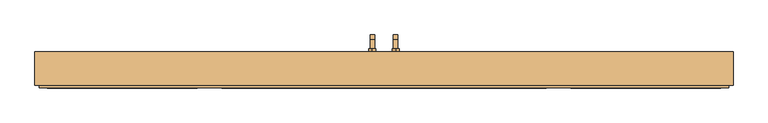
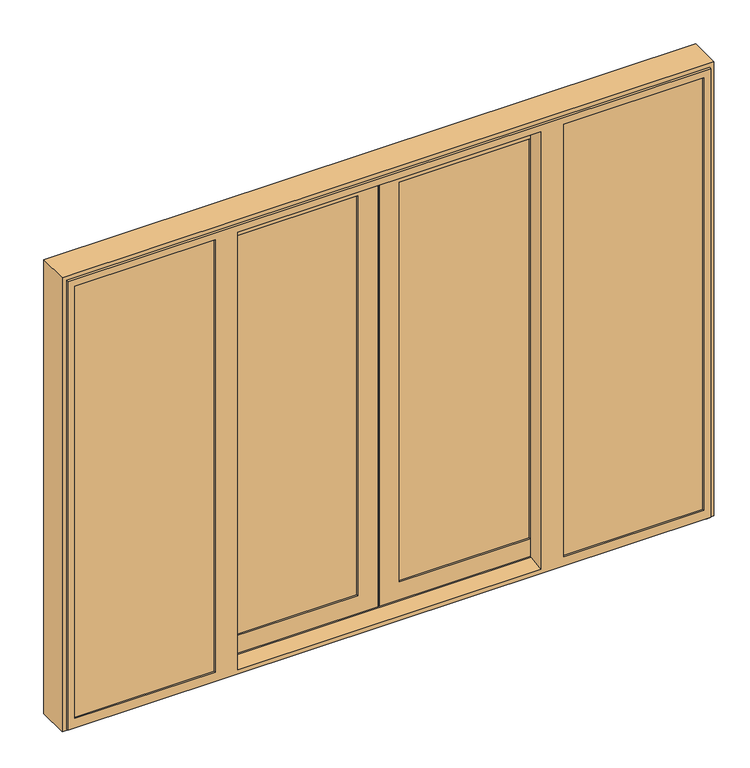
"""IFC4 building model written with IfcOpenShell, lengths in millimetres: door geometry, 3_pod-kli_2+2fix : 3_pod-kli_2+2fix."""

from ifc_helpers import new_model, si_unit, point, frame, frame_2d, origin, place, context, project, spatial, polyline, circle_curve, trimmed, segment, composite_curve, outline, extrude, faceted_brep, source, transform, mapped, element, save
from ifc_brep_helpers import plane_surface, cylinder_surface, advanced_brep


def door_8a70e2ef(model_context):
    return source(origin(), model_context, "Body", "SolidModel", [
        extrude(outline(composite_curve([segment(polyline([(58.0, 1018.0), (58.0, 1033.0), (58.0, 1048.0), (97.0, 1048.0)]), True, "CONTINUOUS"), segment(trimmed(circle_curve(frame_2d((97.0, 1028.0)), 20.0), [point((97.0, 1048.0))], [point((117.0, 1028.0))], False, "CARTESIAN"), True, "CONTINUOUS"), segment(polyline([(117.0, 1028.0), (117.0, 873.0), (99.0, 873.0), (99.0, 993.0)]), True, "CONTINUOUS"), segment(trimmed(circle_curve(frame_2d((74.0, 993.0)), 25.0), [point((99.0, 993.0))], [point((74.0, 1018.0))], True, "CARTESIAN"), True, "CONTINUOUS"), segment(polyline([(74.0, 1018.0), (58.0, 1018.0)]), True, "CONTINUOUS")], self_intersect=False)), frame((-58.5, 0.0, 0.0), z_axis=(1.0, 0.0, 0.0), x_axis=(0.0, 1.0, 0.0)), (0.0, 0.0, 1.0), 18.0),
        extrude(outline(composite_curve([segment(polyline([(1014.0, -34.5), (1052.0, -34.5)]), True, "CONTINUOUS"), segment(trimmed(circle_curve(frame_2d((1052.0, -49.5)), 15.0), [point((1052.0, -34.5))], [point((1067.0, -49.5))], False, "CARTESIAN"), True, "CONTINUOUS"), segment(trimmed(circle_curve(frame_2d((1052.0, -49.5)), 15.0), [point((1067.0, -49.5))], [point((1052.0, -64.5))], False, "CARTESIAN"), True, "CONTINUOUS"), segment(polyline([(1052.0, -64.5), (1014.0, -64.5)]), True, "CONTINUOUS"), segment(trimmed(circle_curve(frame_2d((1014.0, -49.5)), 15.0), [point((1014.0, -64.5))], [point((999.0, -49.5))], False, "CARTESIAN"), True, "CONTINUOUS"), segment(trimmed(circle_curve(frame_2d((1014.0, -49.5)), 15.0), [point((999.0, -49.5))], [point((1014.0, -34.5))], False, "CARTESIAN"), True, "CONTINUOUS")], self_intersect=False)), frame((0.0, 45.0, 0.0), z_axis=(0.0, 1.0, 0.0), x_axis=(0.0, 0.0, 1.0)), (0.0, 0.0, 1.0), 13.0),
        extrude(outline(polyline([(2.6400126, -1.499551), (-10.4797014, -1.499551), (-13.3436624, -4.363512), (-13.3436624, -16.9918386), (-35.4419281, -16.9918386), (-35.4419281, 34.514893), (9.0035079, 34.514893), (9.0035079, 32.503073), (2.6400126, 32.503073), (2.6400126, -1.499551)])), frame((0.0, 0.0, 65.4419281), z_axis=(0.0, 0.0, 1.0), x_axis=(1.0, 0.0, 0.0)), (0.0, 0.0, 1.0), 2066.2161437),
        extrude(outline(composite_curve([segment(polyline([(45.0, 2164.1), (45.0, 33.0), (39.0, 33.0), (39.0, 42.0)]), True, "CONTINUOUS"), segment(trimmed(circle_curve(frame_2d((36.0, 42.0)), 3.0), [point((39.0, 42.0))], [point((36.0, 45.0))], True, "CARTESIAN"), True, "CONTINUOUS"), segment(polyline([(36.0, 45.0), (-18.0, 45.0)]), True, "CONTINUOUS"), segment(trimmed(circle_curve(frame_2d((-18.0, 42.0)), 3.0), [point((-18.0, 45.0))], [point((-21.0, 42.0))], True, "CARTESIAN"), True, "CONTINUOUS"), segment(polyline([(-21.0, 42.0), (-21.0, 33.0), (-36.0, 33.0), (-36.0, 2164.1), (-11.0, 2164.1), (-11.0, 2153.1)]), True, "CONTINUOUS"), segment(trimmed(circle_curve(frame_2d((-8.0, 2153.1)), 3.0), [point((-11.0, 2153.1))], [point((-8.0, 2150.1))], True, "CARTESIAN"), True, "CONTINUOUS"), segment(polyline([(-8.0, 2150.1), (36.0, 2150.1)]), True, "CONTINUOUS"), segment(trimmed(circle_curve(frame_2d((36.0, 2153.1)), 3.0), [point((36.0, 2150.1))], [point((39.0, 2153.1))], True, "CARTESIAN"), True, "CONTINUOUS"), segment(polyline([(39.0, 2153.1), (39.0, 2164.1), (45.0, 2164.1)]), True, "CONTINUOUS")], self_intersect=False)), frame((-802.25, 0.0, 0.0), z_axis=(1.0, 0.0, 0.0), x_axis=(0.0, 1.0, 0.0)), (0.0, 0.0, 1.0), 12.0),
        faceted_brep([(-3.0, 45.0, 33.0), (-3.0, 34.514893, 33.0), (-790.25, 34.514893, 33.0), (-790.25, 45.0, 33.0), (-790.25, 34.514893, 2164.1), (-790.25, 45.0, 2164.1), (-3.0, 34.514893, 2164.1), (-757.8080719, 34.514893, 2131.6580719), (-35.4419281, 34.514893, 2131.6580719), (-35.4419281, 34.514893, 65.4419281), (-757.8080719, 34.514893, 65.4419281), (-3.0, 45.0, 2164.1), (-697.7480953, 45.0, 125.5019047), (-95.5019047, 45.0, 125.5019047), (-95.5019047, 45.0, 2071.5980953), (-697.7480953, 45.0, 2071.5980953), (-95.5019047, 29.0229912, 125.5019047), (-697.7480953, 29.0229912, 125.5019047), (-697.7480953, 29.0229912, 2071.5980953), (-712.7363936, 29.0229912, 110.5136064), (-80.5136064, 29.0229912, 110.5136064), (-80.5136064, 29.0229912, 2086.5863936), (-712.7363936, 29.0229912, 2086.5863936), (-95.5019047, 29.0229912, 2071.5980953), (-80.5136064, -16.976947, 110.5136064), (-712.7363936, -16.976947, 110.5136064), (-712.7363936, -16.976947, 2086.5863936), (-80.5136064, -16.976947, 2086.5863936), (-697.7480912, -16.976947, 125.5019088), (-95.5019088, -16.976947, 125.5019088), (-95.5019088, -16.976947, 2071.5980912), (-697.7480912, -16.976947, 2071.5980912), (-95.5019088, -24.9999801, 125.5019088), (-697.7480912, -24.9999801, 125.5019088), (-697.7480912, -24.9999801, 2071.5980912), (-790.2499999, -24.9999801, 33.0000001), (-3.0000001, -24.9999801, 33.0000001), (-3.0000001, -24.9999801, 2164.0999999), (-790.2499999, -24.9999801, 2164.0999999), (-95.5019088, -24.9999801, 2071.5980912), (-3.0000001, -20.4990483, 33.0000001), (-790.2499999, -20.4990483, 33.0000001), (-790.2499999, -20.4990483, 2164.0999999), (-3.0000001, -20.4990483, 2164.0999999), (-757.8080719, -20.4990483, 65.4419281), (-35.4419281, -20.4990483, 65.4419281), (-35.4419281, -20.4990483, 2131.6580719), (-757.8080719, -20.4990483, 2131.6580719)], [[[0, 1, 2, 3]], [[3, 2, 4, 5]], [[2, 1, 6, 4], [7, 8, 9, 10]], [[5, 11, 0, 3], [12, 13, 14, 15]], [[16, 13, 12, 17]], [[17, 12, 15, 18]], [[19, 20, 21, 22], [18, 23, 16, 17]], [[24, 20, 19, 25]], [[25, 19, 22, 26]], [[26, 27, 24, 25], [28, 29, 30, 31]], [[32, 29, 28, 33]], [[33, 28, 31, 34]], [[35, 36, 37, 38], [34, 39, 32, 33]], [[40, 36, 35, 41]], [[41, 35, 38, 42]], [[42, 43, 40, 41], [44, 45, 46, 47]], [[9, 45, 44, 10]], [[10, 44, 47, 7]], [[11, 6, 1, 0]], [[23, 14, 13, 16]], [[27, 21, 20, 24]], [[39, 30, 29, 32]], [[43, 37, 36, 40]], [[8, 46, 45, 9]], [[5, 4, 6, 11]], [[18, 15, 14, 23]], [[26, 22, 21, 27]], [[34, 31, 30, 39]], [[42, 38, 37, 43]], [[7, 47, 46, 8]]]),
        extrude(outline(polyline([(-712.7363936, 29.0229912), (-80.5136064, 29.0229912), (-80.5136064, -16.976947), (-712.7363936, -16.976947), (-712.7363936, 29.0229912)])), frame((0.0, 0.0, 110.5136064), z_axis=(0.0, 0.0, 1.0), x_axis=(1.0, 0.0, 0.0)), (0.0, 0.0, 1.0), 1976.0727871),
        extrude(outline(composite_curve([segment(polyline([(58.0, 1018.0), (58.0, 1033.0), (58.0, 1048.0), (97.0, 1048.0)]), True, "CONTINUOUS"), segment(trimmed(circle_curve(frame_2d((97.0, 1028.0)), 20.0), [point((97.0, 1048.0))], [point((117.0, 1028.0))], False, "CARTESIAN"), True, "CONTINUOUS"), segment(polyline([(117.0, 1028.0), (117.0, 873.0), (99.0, 873.0), (99.0, 993.0)]), True, "CONTINUOUS"), segment(trimmed(circle_curve(frame_2d((74.0, 993.0)), 25.0), [point((99.0, 993.0))], [point((74.0, 1018.0))], True, "CARTESIAN"), True, "CONTINUOUS"), segment(polyline([(74.0, 1018.0), (58.0, 1018.0)]), True, "CONTINUOUS")], self_intersect=False)), frame((40.5, 0.0, 0.0), z_axis=(1.0, 0.0, 0.0), x_axis=(0.0, 1.0, 0.0)), (0.0, 0.0, 1.0), 18.0),
        extrude(outline(composite_curve([segment(trimmed(circle_curve(frame_2d((1014.0, 49.5)), 15.0), [point((1014.0, 34.5))], [point((999.0, 49.5))], False, "CARTESIAN"), True, "CONTINUOUS"), segment(trimmed(circle_curve(frame_2d((1014.0, 49.5)), 15.0), [point((999.0, 49.5))], [point((1014.0, 64.5))], False, "CARTESIAN"), True, "CONTINUOUS"), segment(polyline([(1014.0, 64.5), (1052.0, 64.5)]), True, "CONTINUOUS"), segment(trimmed(circle_curve(frame_2d((1052.0, 49.5)), 15.0), [point((1052.0, 64.5))], [point((1067.0, 49.5))], False, "CARTESIAN"), True, "CONTINUOUS"), segment(trimmed(circle_curve(frame_2d((1052.0, 49.5)), 15.0), [point((1067.0, 49.5))], [point((1052.0, 34.5))], False, "CARTESIAN"), True, "CONTINUOUS"), segment(polyline([(1052.0, 34.5), (1014.0, 34.5)]), True, "CONTINUOUS")], self_intersect=False)), frame((0.0, 45.0, 0.0), z_axis=(0.0, 1.0, 0.0), x_axis=(0.0, 0.0, 1.0)), (0.0, 0.0, 1.0), 13.0),
        extrude(outline(polyline([(-9.0035079, -12.4970515), (15.942563, -12.4970515), (15.942563, 34.514893), (35.4419281, 34.514893), (35.4419281, -20.4990483), (3.0000001, -20.4990483), (3.0000001, -14.5088715), (-9.0035079, -14.5088715), (-9.0035079, -12.4970515)])), frame((0.0, 0.0, 65.4419281), z_axis=(0.0, 0.0, 1.0), x_axis=(1.0, 0.0, 0.0)), (0.0, 0.0, 1.0), 2066.2161437),
        extrude(outline(composite_curve([segment(polyline([(45.0, 33.0), (39.0, 33.0), (39.0, 42.0)]), True, "CONTINUOUS"), segment(trimmed(circle_curve(frame_2d((36.0, 42.0)), 3.0), [point((39.0, 42.0))], [point((36.0, 45.0))], True, "CARTESIAN"), True, "CONTINUOUS"), segment(polyline([(36.0, 45.0), (-18.0, 45.0)]), True, "CONTINUOUS"), segment(trimmed(circle_curve(frame_2d((-18.0, 42.0)), 3.0), [point((-18.0, 45.0))], [point((-21.0, 42.0))], True, "CARTESIAN"), True, "CONTINUOUS"), segment(polyline([(-21.0, 42.0), (-21.0, 33.0), (-36.0, 33.0), (-36.0, 2164.1), (-11.0, 2164.1), (-11.0, 2153.1)]), True, "CONTINUOUS"), segment(trimmed(circle_curve(frame_2d((-8.0, 2153.1)), 3.0), [point((-11.0, 2153.1))], [point((-8.0, 2150.1))], True, "CARTESIAN"), True, "CONTINUOUS"), segment(polyline([(-8.0, 2150.1), (36.0, 2150.1)]), True, "CONTINUOUS"), segment(trimmed(circle_curve(frame_2d((36.0, 2153.1)), 3.0), [point((36.0, 2150.1))], [point((39.0, 2153.1))], True, "CARTESIAN"), True, "CONTINUOUS"), segment(polyline([(39.0, 2153.1), (39.0, 2164.1), (45.0, 2164.1), (45.0, 33.0)]), True, "CONTINUOUS")], self_intersect=False)), frame((790.25, 0.0, 0.0), z_axis=(1.0, 0.0, 0.0), x_axis=(0.0, 1.0, 0.0)), (0.0, 0.0, 1.0), 12.0),
        faceted_brep([(3.0, 45.0, 33.0), (790.25, 45.0, 33.0), (790.25, 34.514893, 33.0), (3.0, 34.514893, 33.0), (790.25, 45.0, 2164.1), (790.25, 34.514893, 2164.1), (3.0, 34.514893, 2164.1), (757.8080719, 34.514893, 2131.6580719), (757.8080719, 34.514893, 65.4419281), (35.4419281, 34.514893, 65.4419281), (35.4419281, 34.514893, 2131.6580719), (3.0, 45.0, 2164.1), (697.7480953, 45.0, 125.5019047), (697.7480953, 45.0, 2071.5980953), (95.5019047, 45.0, 2071.5980953), (95.5019047, 45.0, 125.5019047), (95.5019047, 29.0229912, 125.5019047), (697.7480953, 29.0229912, 125.5019047), (697.7480953, 29.0229912, 2071.5980953), (712.7363936, 29.0229912, 110.5136064), (712.7363936, 29.0229912, 2086.5863936), (80.5136064, 29.0229912, 2086.5863936), (80.5136064, 29.0229912, 110.5136064), (95.5019047, 29.0229912, 2071.5980953), (80.5136064, -16.976947, 110.5136064), (712.7363936, -16.976947, 110.5136064), (712.7363936, -16.976947, 2086.5863936), (80.5136064, -16.976947, 2086.5863936), (697.7480912, -16.976947, 125.5019088), (697.7480912, -16.976947, 2071.5980912), (95.5019088, -16.976947, 2071.5980912), (95.5019088, -16.976947, 125.5019088), (95.5019088, -24.9999801, 125.5019088), (697.7480912, -24.9999801, 125.5019088), (697.7480912, -24.9999801, 2071.5980912), (790.2499999, -24.9999801, 33.0000001), (790.2499999, -24.9999801, 2164.0999999), (3.0000001, -24.9999801, 2164.0999999), (3.0000001, -24.9999801, 33.0000001), (95.5019088, -24.9999801, 2071.5980912), (3.0000001, -20.4990483, 33.0000001), (790.2499999, -20.4990483, 33.0000001), (790.2499999, -20.4990483, 2164.0999999), (3.0000001, -20.4990483, 2164.0999999), (757.8080719, -20.4990483, 65.4419281), (757.8080719, -20.4990483, 2131.6580719), (35.4419281, -20.4990483, 2131.6580719), (35.4419281, -20.4990483, 65.4419281)], [[[0, 1, 2, 3]], [[1, 4, 5, 2]], [[2, 5, 6, 3], [7, 8, 9, 10]], [[4, 1, 0, 11], [12, 13, 14, 15]], [[16, 17, 12, 15]], [[17, 18, 13, 12]], [[19, 20, 21, 22], [18, 17, 16, 23]], [[24, 25, 19, 22]], [[25, 26, 20, 19]], [[26, 25, 24, 27], [28, 29, 30, 31]], [[32, 33, 28, 31]], [[33, 34, 29, 28]], [[35, 36, 37, 38], [34, 33, 32, 39]], [[40, 41, 35, 38]], [[41, 42, 36, 35]], [[42, 41, 40, 43], [44, 45, 46, 47]], [[9, 8, 44, 47]], [[8, 7, 45, 44]], [[11, 0, 3, 6]], [[23, 16, 15, 14]], [[27, 24, 22, 21]], [[39, 32, 31, 30]], [[43, 40, 38, 37]], [[10, 9, 47, 46]], [[4, 11, 6, 5]], [[18, 23, 14, 13]], [[26, 27, 21, 20]], [[34, 39, 30, 29]], [[42, 43, 37, 36]], [[7, 10, 46, 45]]]),
        extrude(outline(polyline([(712.7363936, 29.0229912), (712.7363936, -16.976947), (80.5136064, -16.976947), (80.5136064, 29.0229912), (712.7363936, 29.0229912)])), frame((0.0, 0.0, 110.5136064), z_axis=(0.0, 0.0, 1.0), x_axis=(1.0, 0.0, 0.0)), (0.0, 0.0, 1.0), 1976.0727871),
        extrude(outline(polyline([(1462.2865069, -56.9813475), (1462.2865069, -102.9812858), (787.2616977, -102.9812858), (787.2616977, -56.9813475), (1462.2865069, -56.9813475)])), frame((0.0, 0.0, 37.7134931), z_axis=(0.0, 0.0, 1.0), x_axis=(1.0, 0.0, 0.0)), (0.0, 0.0, 1.0), 2134.5730137),
        extrude(outline(polyline([(-787.2616977, -56.9813475), (-787.2616977, -102.9812858), (-1462.2865069, -102.9812858), (-1462.2865069, -56.9813475), (-787.2616977, -56.9813475)])), frame((0.0, 0.0, 37.7134931), z_axis=(0.0, 0.0, 1.0), x_axis=(1.0, 0.0, 0.0)), (0.0, 0.0, 1.0), 2134.5730137),
        advanced_brep(
        [(1481.0012984, -100.0086091, 0.0), (1481.0012984, -102.9812858, 0.0), (1462.2865069, -102.9812858, 0.0), (1462.2865069, -100.0086004, 0.0), (-1500.0, -100.0086004, 0.0), (-1500.0, 45.0, 0.0), (1500.0, 45.0, 0.0), (1500.0, -100.0086091, 0.0), (1500.0, -100.0086091, 2210.0), (-1500.0, -100.0086091, 2210.0), (1462.2865069, -100.0086091, 6.9987016), (-1481.0012984, -100.0086091, 6.9987016), (-1481.0012984, -100.0086091, 2191.0012984), (1481.0012984, -100.0086091, 2191.0012984), (1500.0, 45.0, 2210.0), (-1500.0, 45.0, 2210.0), (1447.2983107, 45.0, 26.6694609), (1447.2983107, 45.0, 2173.0117569), (-1447.2983107, 45.0, 2173.0117569), (-1447.2983107, 45.0, 26.6694609), (1462.2865069, -102.9812858, 6.9987016), (1462.2865069, -102.9812957, 37.7134931), (1462.2865069, -102.9812957, 2172.2865069), (1462.2865069, -56.9813575, 2172.2865069), (1462.2865069, -56.9813575, 37.7134931), (1481.0012984, -102.9812858, 6.9987016), (1481.0012984, -111.0086004, 2191.0012984), (1481.0012984, -111.0086091, 6.9987016), (1447.3000012, -111.0086091, 52.6999988), (1447.3000012, -111.0086091, 2157.2783107), (1447.3000012, -102.9812957, 2157.2783107), (1447.3000012, -102.9812957, 52.6999988), (802.25, -102.9812865, 52.6999988), (802.25, -111.0086011, 52.6999988), (787.2616977, -102.9812957, 37.7134931), (787.2616977, -102.9812957, 2172.2865069), (802.25, -102.9812957, 2157.2783107), (-1481.0012984, -111.0086091, 2191.0012984), (-1481.0012984, -111.0086091, 6.9987016), (802.25, -111.0086091, 2157.2783107), (-1447.3000012, -111.0086091, 2157.2783107), (-802.25, -111.0086091, 2157.2783107), (-802.25, -111.0086091, 52.6999988), (-1447.3000012, -111.0086091, 52.6999988), (-697.7480914, -111.0086091, 2157.2783107), (697.7480914, -111.0086091, 2157.2783107), (697.7480914, -111.0086091, 27.3132421), (-697.7480914, -111.0086091, 27.3132421), (-1447.3000012, -102.9812858, 52.6999988), (-1447.3000012, -102.9812955, 2157.2783107), (-802.25, -102.9812858, 52.6999988), (-802.25, -102.9997872, 2157.2783107), (-697.7480914, -33.7795341, 38.7547936), (-697.7480914, -29.9999801, 38.7547936), (-697.7480914, -29.9999801, 2157.2783107), (697.7480914, -33.7795341, 38.7547936), (750.0, -33.7795341, 38.7547936), (709.7480914, -33.7795341, 38.7547936), (709.7480914, -41.0, 37.6850755), (750.0, -41.0, 37.6850755), (-750.0, -41.0, 37.6850755), (-709.7480914, -41.0, 37.6850755), (-709.7480914, -33.7795341, 38.7547936), (-750.0, -33.7795341, 38.7547936), (697.7480914, -29.9999801, 2157.2783107), (697.7480914, -29.9999801, 38.7547936), (-1447.2983107, 34.5119106, 29.2929595), (1447.2983107, 34.5119106, 29.2929595), (-1447.2983107, 15.6119106, 29.4196454), (-1447.2983107, 18.2007291, 31.918122), (-1447.2983107, 20.6119106, 29.4196466), (-1447.2983107, 20.6119106, 27.7196454), (-1447.2983107, 29.1119106, 27.7196454), (-1447.2983107, 29.1119106, 38.5196454), (-1447.2983107, 34.5119106, 38.5196454), (-1447.2983107, 34.5268984, 2173.0117569), (-1447.2983107, 34.5268984, 2155.1117569), (-1447.2983107, 4.1268984, 2155.1117569), (-1447.2983107, 4.1268984, 2173.0117569), (-1447.2983107, -41.0046539, 2173.0117569), (-1447.2983107, -41.0046539, 2157.2783107), (-1447.2983107, -56.9813572, 2157.2783107), (-1447.2983107, -56.9813475, 52.666497), (-1447.2983107, -41.0373431, 52.666497), (-1447.2983107, -41.0373431, 33.027717), (-1447.2983107, -6.9880894, 33.027717), (-1447.2983107, -6.9880894, 38.5196454), (-1447.2983107, 6.1119106, 38.5196454), (-1447.2983107, 6.1119106, 27.7196454), (-1447.2983107, 15.6119106, 27.7196454), (1447.2983107, 15.6119106, 29.4196454), (1447.2983107, 15.6119106, 27.7196454), (1447.2983107, 6.1119106, 27.7196454), (1447.2983107, 6.1119106, 38.5196454), (1447.2983107, -6.9880894, 38.5196454), (1447.2983107, -6.9880894, 33.027717), (1447.2983107, -41.0373431, 33.027717), (1447.2983107, -41.0373431, 52.666497), (1447.2983107, -56.9813575, 52.666497), (1447.2983107, -56.9813575, 2157.2783107), (1447.2983107, -41.0046539, 2157.2783107), (1447.2983107, -41.0046539, 2173.0117569), (1447.2983107, 4.1268984, 2173.0117569), (1447.2983107, 4.1268984, 2155.1117569), (1447.2983107, 34.5268984, 2155.1117569), (1447.2983107, 34.5268984, 2173.0117569), (1447.2983107, 34.5119106, 38.5196454), (1447.2983107, 29.1119106, 38.5196454), (1447.2983107, 29.1119106, 27.7196454), (1447.2983107, 20.6119106, 27.7196454), (1447.2983107, 20.6119106, 29.4196466), (1447.2983107, 18.2007291, 31.918122), (750.0, 18.2007291, 31.918122), (750.0, 15.6119106, 29.4196454), (750.0, 20.6119106, 29.4196466), (-750.0, 20.6119106, 29.4196466), (787.2616977, -56.9813575, 2172.2865069), (787.2616977, -56.9813575, 37.7134931), (802.249996, -56.9813575, 52.666497), (802.249996, -56.9813575, 2157.2783107), (802.249996, -41.0373431, 52.666497), (750.0, -41.0373431, 33.027717), (709.7480914, -41.0373431, 2157.2783107), (750.0, -41.0373431, 2157.2783107), (750.0, -41.0373431, 2173.0117569), (802.249996, -41.0373431, 2157.2783107), (-750.0, -41.0373431, 33.027717), (-750.0, -24.9881005, 33.027717), (750.0, -24.9881005, 33.027717), (-750.0, 15.6119106, 29.4196454), (-750.0, 18.2007291, 31.918122), (750.0, -24.9881005, 38.7547936), (-750.0, -24.9881005, 38.7547936), (-802.249996, -41.0373431, 52.666497), (-802.249996, -41.0373431, 2157.2783107), (-750.0, -41.0373431, 2173.0117569), (-750.0, -41.0373431, 2157.2783107), (-709.7480914, -41.0373431, 2157.2783107), (709.7480914, -29.9999801, 2157.2783107), (709.7480914, -29.9999801, 38.7547936), (-709.7480914, -29.9999801, 38.7547936), (-709.7480914, -29.9999801, 2157.2783107), (-802.249996, -56.9998496, 2157.2783107), (-802.249996, -56.9813475, 52.666497), (-1462.2865069, -56.9813475, 37.7134931), (-787.2616977, -56.9813475, 37.7134931), (-787.2616977, -56.9813475, 2172.2865069), (-1462.2865069, -56.9813475, 2172.2865069), (-1462.2865069, -102.9812956, 2172.2865069), (-1462.2865069, -102.9812858, 37.7134931), (-787.2616977, -102.9812858, 37.7134931), (-787.2616977, -102.9812858, 2172.2865069), (750.0, -24.9881903, 2157.2783107), (-750.0, -24.9881903, 2157.2783107), (-750.0, 4.1268984, 2173.0117569), (-750.0, 4.1268984, 2155.1117569), (-750.0, 34.5268984, 2155.1117569), (750.0, 34.5268984, 2155.1117569), (750.0, 34.5268984, 2154.3117602), (-750.0, 34.5268984, 2154.3117602), (750.0, 4.1268984, 2155.1117569), (750.0, 4.1268984, 2173.0117569), (-750.0, -20.4873768, 2154.3117602), (-750.0, -20.4873768, 2164.11172), (-750.0, -24.9881903, 2164.11172), (750.0, -20.4873768, 2154.3117602), (750.0, -24.9881903, 2164.11172), (750.0, -20.4873768, 2164.11172)],
        [
            (0, 1),
            (1, 2),
            (2, 3),
            (3, 4),
            (4, 5),
            (5, 6),
            (6, 7),
            (7, 0),
            (7, 8),
            (8, 9),
            (9, 4),
            (3, 10),
            (10, 11),
            (11, 12),
            (12, 13),
            (13, 0),
            (6, 14),
            (14, 8),
            (5, 15),
            (15, 14),
            (16, 17),
            (17, 18),
            (18, 19),
            (19, 16),
            (9, 15),
            (2, 20),
            (20, 10),
            (21, 22),
            (22, 23),
            (23, 24),
            (24, 21),
            (1, 25),
            (25, 20),
            (13, 26),
            (26, 27),
            (27, 25),
            (28, 29),
            (29, 30),
            (30, 31),
            (31, 28),
            (31, 32),
            (32, 33),
            (33, 28),
            (21, 34),
            (34, 35),
            (35, 22),
            (30, 36),
            (36, 32),
            (37, 38),
            (38, 27),
            (26, 37),
            (33, 39),
            (39, 29),
            (40, 41),
            (41, 42),
            (42, 43),
            (43, 40),
            (44, 45),
            (45, 46),
            (46, 47),
            (47, 44),
            (48, 49),
            (49, 40),
            (43, 48),
            (42, 50),
            (50, 48),
            (41, 51),
            (51, 50),
            (36, 39),
            (47, 52),
            (52, 53),
            (53, 54),
            (54, 44),
            (46, 55),
            (55, 52),
            (56, 57),
            (57, 58),
            (58, 59),
            (59, 56),
            (60, 61),
            (61, 62),
            (62, 63),
            (63, 60),
            (45, 64),
            (64, 65),
            (65, 55),
            (38, 11),
            (37, 12),
            (19, 66),
            (66, 67),
            (67, 16),
            (68, 69, circle_curve(frame((-1447.2983107, 18.0585408, 29.4749998), z_axis=(-1.0, 0.0, 0.0), x_axis=(0.0, 0.058101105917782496, 0.9983107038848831)), 2.4472564)),
            (69, 70, circle_curve(frame((-1447.2983107, 18.1761818, 29.4817259), z_axis=(-1.0, 0.0, 0.0), x_axis=(0.0, 0.9996753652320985, -0.025478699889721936)), 2.4365198)),
            (70, 71),
            (71, 72),
            (72, 73),
            (73, 74),
            (74, 66),
            (18, 75),
            (75, 76),
            (76, 77),
            (77, 78),
            (78, 79),
            (79, 80),
            (80, 81),
            (81, 82),
            (82, 83),
            (83, 84),
            (84, 85),
            (85, 86),
            (86, 87),
            (87, 88),
            (88, 89),
            (89, 68),
            (90, 91),
            (91, 92),
            (92, 93),
            (93, 94),
            (94, 95),
            (95, 96),
            (96, 97),
            (97, 98),
            (98, 99),
            (99, 100),
            (100, 101),
            (101, 102),
            (102, 103),
            (103, 104),
            (104, 105),
            (105, 17),
            (67, 106),
            (106, 107),
            (107, 108),
            (108, 109),
            (109, 110),
            (110, 111, circle_curve(frame((1447.2983107, 18.1761818, 29.4817259), z_axis=(1.0, 0.0, 0.0), x_axis=(0.0, 0.9996753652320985, -0.025478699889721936)), 2.4365198)),
            (111, 90, circle_curve(frame((1447.2983107, 18.0585408, 29.4749998), z_axis=(1.0, 0.0, 0.0), x_axis=(0.0, 0.058101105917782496, 0.9983107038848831)), 2.4472564)),
            (112, 113, circle_curve(frame((750.0, 18.0585408, 29.4749998), z_axis=(1.0, 0.0, 0.0), x_axis=(0.0, 0.058101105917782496, 0.9983107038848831)), 2.4472564)),
            (113, 90),
            (111, 112),
            (110, 114),
            (114, 112, circle_curve(frame((750.0, 18.1761818, 29.4817259), z_axis=(1.0, 0.0, 0.0), x_axis=(0.0, 0.9996753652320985, -0.025478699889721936)), 2.4365198)),
            (109, 71),
            (70, 115),
            (115, 114),
            (108, 72),
            (107, 73),
            (106, 74),
            (23, 116),
            (116, 117),
            (117, 24),
            (98, 118),
            (118, 119),
            (119, 99),
            (97, 120),
            (120, 118),
            (96, 121),
            (121, 59),
            (58, 122),
            (122, 123),
            (123, 124),
            (124, 101),
            (100, 125),
            (125, 120),
            (95, 85),
            (84, 126),
            (126, 127),
            (127, 128),
            (128, 121),
            (94, 86),
            (93, 87),
            (92, 88),
            (91, 89),
            (113, 129),
            (129, 68),
            (125, 119),
            (117, 34),
            (116, 35),
            (130, 129, circle_curve(frame((-750.0, 18.0585408, 29.4749998), z_axis=(1.0, 0.0, 0.0), x_axis=(0.0, 0.05810110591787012, 0.998310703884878)), 2.4472564)),
            (112, 130),
            (130, 69),
            (128, 131),
            (131, 56),
            (132, 131),
            (127, 132),
            (126, 60),
            (63, 132),
            (83, 133),
            (133, 134),
            (134, 80),
            (79, 135),
            (135, 136),
            (136, 137),
            (137, 61),
            (138, 122),
            (57, 139),
            (139, 138),
            (115, 130, circle_curve(frame((-750.0, 18.1761818, 29.4817259), z_axis=(1.0, 0.0, 0.0), x_axis=(0.0, 0.9996753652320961, -0.025478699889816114)), 2.4365198)),
            (140, 62),
            (137, 141),
            (141, 140),
            (142, 134),
            (133, 143),
            (143, 142),
            (82, 143),
            (144, 145),
            (145, 146),
            (146, 147),
            (147, 144),
            (81, 142),
            (147, 148),
            (148, 149),
            (149, 144),
            (150, 151),
            (151, 146),
            (145, 150),
            (149, 150),
            (148, 151),
            (51, 49),
            (140, 53),
            (65, 139),
            (64, 138),
            (141, 54),
            (152, 123),
            (136, 153),
            (153, 152),
            (154, 135),
            (78, 154),
            (77, 155),
            (155, 154),
            (76, 156),
            (156, 155),
            (75, 105),
            (104, 157),
            (157, 158),
            (158, 159),
            (159, 156),
            (103, 160),
            (160, 157),
            (102, 161),
            (161, 160),
            (124, 161),
            (162, 163),
            (163, 164),
            (164, 153),
            (159, 162),
            (165, 158),
            (152, 166),
            (166, 167),
            (167, 165),
            (165, 162),
            (164, 166),
            (163, 167),
        ],
        [
            plane_surface(frame((1500.0, 45.0, 0.0), z_axis=(0.0, 0.0, -1.0), x_axis=(0.0, 1.0, 0.0))),
            plane_surface(frame((1481.0012984, -100.0086091, 0.0), z_axis=(0.0, -1.0, 0.0), x_axis=(0.0, 0.0, 1.0))),
            plane_surface(frame((1500.0, -100.0086091, 0.0), z_axis=(1.0, 0.0, 0.0), x_axis=(0.0, 0.0, 1.0))),
            plane_surface(frame((1500.0, 45.0, 0.0), z_axis=(0.0, 1.0, 0.0), x_axis=(0.0, 0.0, 1.0))),
            plane_surface(frame((-1500.0, 45.0, 0.0), z_axis=(-1.0, 0.0, 0.0), x_axis=(0.0, 1.0, 0.0))),
            plane_surface(frame((1462.2865069, -56.9813575, 0.0), z_axis=(-1.0, 0.0, 0.0), x_axis=(0.0, 0.0, 1.0))),
            plane_surface(frame((1462.2865069, -102.9812858, 6.9987016), z_axis=(0.0, -1.0, 0.0), x_axis=(0.0, 0.0, -1.0))),
            plane_surface(frame((1481.0012984, -111.0086091, 0.0), z_axis=(1.0, 0.0, 0.0), x_axis=(0.0, 0.0, 1.0))),
            plane_surface(frame((1447.3000012, -102.9812957, 0.0), z_axis=(-1.0, 0.0, 0.0), x_axis=(0.0, 0.0, 1.0))),
            plane_surface(frame((750.0, -102.9812858, 52.6999988), z_axis=(0.0, 0.0, 1.0), x_axis=(1.0, 0.0, 0.0))),
            plane_surface(frame((1462.2865069, -102.9812957, 0.0), z_axis=(0.0, 1.0, 0.0), x_axis=(0.0, 0.0, 1.0))),
            plane_surface(frame((1447.3000012, -111.0086091, 0.0), z_axis=(0.0, -1.0, 0.0), x_axis=(0.0, 0.0, 1.0))),
            plane_surface(frame((-1447.3000012, -111.0086091, 0.0), z_axis=(1.0, 0.0, 0.0), x_axis=(0.0, 0.0, 1.0))),
            plane_surface(frame((-1500.0, -102.9812858, 52.6999988), z_axis=(0.0, 0.0, 1.0), x_axis=(1.0, 0.0, 0.0))),
            plane_surface(frame((-802.25, -110.9999801, 2191.0012984), z_axis=(-1.0, 0.0, 0.0), x_axis=(0.0, 0.0, -1.0))),
            plane_surface(frame((802.25, -102.976947, 2191.0012984), z_axis=(1.0, 0.0, 0.0), x_axis=(0.0, 0.0, -1.0))),
            plane_surface(frame((-697.7480914, -29.9999801, 2191.0012984), z_axis=(1.0, 0.0, 0.0), x_axis=(0.0, 0.0, -1.0))),
            plane_surface(frame((-750.0, -33.7795341, 38.7547936), z_axis=(0.0, -0.14655127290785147, 0.9892030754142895), x_axis=(1.0, 0.0, 0.0))),
            plane_surface(frame((697.7480914, -110.9999801, 2191.0012984), z_axis=(-1.0, 0.0, 0.0), x_axis=(0.0, 0.0, -1.0))),
            plane_surface(frame((750.0, -111.0086004, 6.9987016), z_axis=(0.0, 0.0, -1.0), x_axis=(1.0, 0.0, 0.0))),
            plane_surface(frame((-1481.0012984, -100.0086091, 0.0), z_axis=(-1.0, 0.0, 0.0), x_axis=(0.0, 0.0, 1.0))),
            plane_surface(frame((750.0, 45.0, 26.6694609), z_axis=(0.0, 0.24266413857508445, 0.9701103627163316), x_axis=(1.0, 0.0, 0.0))),
            plane_surface(frame((-1447.2983107, -56.9813575, 0.0), z_axis=(1.0, 0.0, 0.0), x_axis=(0.0, 0.0, 1.0))),
            plane_surface(frame((1447.2983107, 45.0, 0.0), z_axis=(-1.0, 0.0, 0.0), x_axis=(0.0, 0.0, 1.0))),
            cylinder_surface(frame((750.0, 18.0585408, 29.4749998), z_axis=(-1.0, 0.0, 0.0), x_axis=(0.0, 0.058101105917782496, 0.9983107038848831)), 2.4472564),
            cylinder_surface(frame((750.0, 18.1761818, 29.4817259), z_axis=(-1.0000000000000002, 0.0, 0.0), x_axis=(0.0, 0.9996753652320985, -0.025478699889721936)), 2.4365198),
            plane_surface(frame((750.0, 20.6119106, 27.7196454), z_axis=(0.0, 1.0, 0.0), x_axis=(1.0, 0.0, 0.0))),
            plane_surface(frame((750.0, 29.1119106, 27.7196454), z_axis=(0.0, 0.0, 1.0), x_axis=(1.0, 0.0, 0.0))),
            plane_surface(frame((750.0, 29.1119106, 38.5196454), z_axis=(0.0, -1.0, 0.0), x_axis=(1.0, 0.0, 0.0))),
            plane_surface(frame((750.0, 34.5119106, 38.5196454), z_axis=(0.0, 0.0, 1.0), x_axis=(1.0, 0.0, 0.0))),
            plane_surface(frame((750.0, 34.5119106, 29.2929595), z_axis=(0.0, 1.0, 0.0), x_axis=(1.0, 0.0, 0.0))),
            plane_surface(frame((1447.2983107, -56.9813575, 0.0), z_axis=(0.0, -1.0, 0.0), x_axis=(0.0, 0.0, 1.0))),
            plane_surface(frame((750.0, -41.0373431, 52.666497), z_axis=(0.0, 0.0, 1.0), x_axis=(1.0, 0.0, 0.0))),
            plane_surface(frame((750.0, -41.0373431, 33.027717), z_axis=(0.0, 1.0, 0.0), x_axis=(1.0, 0.0, 0.0))),
            plane_surface(frame((750.0, -6.9880894, 33.027717), z_axis=(0.0, 0.0, 1.0), x_axis=(1.0, 0.0, 0.0))),
            plane_surface(frame((750.0, -6.9880894, 38.5196454), z_axis=(0.0, -1.0, 0.0), x_axis=(1.0, 0.0, 0.0))),
            plane_surface(frame((750.0, 6.1119106, 38.5196454), z_axis=(0.0, 0.0, 1.0), x_axis=(1.0, 0.0, 0.0))),
            plane_surface(frame((750.0, 6.1119106, 27.7196454), z_axis=(0.0, 1.0, 0.0), x_axis=(1.0, 0.0, 0.0))),
            plane_surface(frame((750.0, 15.6119106, 27.7196454), z_axis=(0.0, 0.0, 1.0), x_axis=(1.0, 0.0, 0.0))),
            plane_surface(frame((750.0, 15.6119106, 29.4196454), z_axis=(0.0, -1.0, 0.0), x_axis=(1.0, 0.0, 0.0))),
            plane_surface(frame((802.249996, -41.0, 2191.0012984), z_axis=(1.0, 0.0, 0.0), x_axis=(0.0, 0.0, -1.0))),
            plane_surface(frame((750.0, -56.9813475, 37.7134931), z_axis=(0.0, 0.0, 1.0), x_axis=(1.0, 0.0, 0.0))),
            plane_surface(frame((787.2616977, -56.9770088, 2191.0012984), z_axis=(1.0, 0.0, 0.0), x_axis=(0.0, 0.0, -1.0))),
            cylinder_surface(frame((-750.0, 18.0585408, 29.4749998), z_axis=(-1.0, 0.0, 0.0), x_axis=(0.0, 0.05810110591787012, 0.998310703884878)), 2.4472564),
            cylinder_surface(frame((-1500.0, 18.0585408, 29.4749998), z_axis=(-1.0, 0.0, 0.0), x_axis=(0.0, 0.058101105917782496, 0.9983107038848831)), 2.4472564),
            plane_surface(frame((750.0, 45.0, 0.0), z_axis=(1.0, 0.0, 0.0), x_axis=(0.0, 1.0, 0.0))),
            plane_surface(frame((-750.0, -24.9881005, 33.027717), z_axis=(0.0, 1.0, 0.0), x_axis=(1.0, 0.0, 0.0))),
            plane_surface(frame((-750.0, 45.0, 0.0), z_axis=(-1.0, 0.0, 0.0), x_axis=(0.0, 1.0, 0.0))),
            plane_surface(frame((-1500.0, -41.0373431, 33.027717), z_axis=(0.0, 1.0, 0.0), x_axis=(1.0, 0.0, 0.0))),
            plane_surface(frame((709.7480914, -29.9999801, 2191.0012984), z_axis=(1.0, 0.0, 0.0), x_axis=(0.0, 0.0, -1.0))),
            cylinder_surface(frame((-750.0, 18.1761818, 29.4817259), z_axis=(-1.0, 0.0, 0.0), x_axis=(0.0, 0.9996753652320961, -0.025478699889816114)), 2.4365198),
            cylinder_surface(frame((-1500.0, 18.1761818, 29.4817259), z_axis=(-1.0000000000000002, 0.0, 0.0), x_axis=(0.0, 0.9996753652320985, -0.025478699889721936)), 2.4365198),
            plane_surface(frame((-709.7480914, -41.0, 2191.0012984), z_axis=(-1.0, 0.0, 0.0), x_axis=(0.0, 0.0, -1.0))),
            plane_surface(frame((-802.249996, -56.9770088, 2191.0012984), z_axis=(-1.0, 0.0, 0.0), x_axis=(0.0, 0.0, -1.0))),
            plane_surface(frame((-1500.0, -41.0373431, 52.666497), z_axis=(0.0, 0.0, 1.0), x_axis=(1.0, 0.0, 0.0))),
            plane_surface(frame((-1500.0, -56.9813475, 52.666497), z_axis=(0.0, -1.0, 0.0), x_axis=(1.0, 0.0, 0.0))),
            plane_surface(frame((-1462.2865069, -102.9812957, 0.0), z_axis=(1.0, 0.0, 0.0), x_axis=(0.0, 0.0, 1.0))),
            plane_surface(frame((-787.2616977, -102.976947, 2191.0012984), z_axis=(-1.0, 0.0, 0.0), x_axis=(0.0, 0.0, -1.0))),
            plane_surface(frame((-1500.0, -56.9813475, 37.7134931), z_axis=(0.0, 0.0, 1.0), x_axis=(1.0, 0.0, 0.0))),
            plane_surface(frame((-1500.0, -102.9812858, 37.7134931), z_axis=(0.0, 1.0, 0.0), x_axis=(1.0, 0.0, 0.0))),
            plane_surface(frame((-750.0, -24.9881005, 38.7547936), z_axis=(0.0, 0.0, 1.0), x_axis=(1.0, 0.0, 0.0))),
            plane_surface(frame((697.7480914, -29.9999801, 2191.0012984), z_axis=(0.0, 1.0, 0.0), x_axis=(0.0, 0.0, -1.0))),
            plane_surface(frame((-709.7480914, -29.9999801, 2191.0012984), z_axis=(0.0, 1.0, 0.0), x_axis=(0.0, 0.0, -1.0))),
            plane_surface(frame((1500.0, 45.0, 2210.0), z_axis=(0.0, 0.0, 1.0), x_axis=(0.0, 1.0, 0.0))),
            plane_surface(frame((-1500.0, -111.0086004, 2157.2783107), z_axis=(0.0, 0.0, -1.0), x_axis=(1.0, 0.0, 0.0))),
            plane_surface(frame((-1500.0, -103.0012858, 2172.2865069), z_axis=(0.0, 0.0, -1.0), x_axis=(1.0, 0.0, 0.0))),
            plane_surface(frame((-1500.0, -41.0046539, 2173.0117569), z_axis=(0.0, 0.0, -1.0), x_axis=(1.0, 0.0, 0.0))),
            plane_surface(frame((-1500.0, 4.1268984, 2173.0117569), z_axis=(0.0, -1.0, 0.0), x_axis=(1.0, 0.0, 0.0))),
            plane_surface(frame((-1500.0, 4.1268984, 2155.1117569), z_axis=(0.0, 0.0, -1.0), x_axis=(1.0, 0.0, 0.0))),
            plane_surface(frame((-1500.0, 34.5268984, 2155.1117569), z_axis=(0.0, 1.0, 0.0), x_axis=(1.0, 0.0, 0.0))),
            plane_surface(frame((-1500.0, 34.5268984, 2173.0117569), z_axis=(0.0, 0.0, -1.0), x_axis=(1.0, 0.0, 0.0))),
            plane_surface(frame((-1500.0, -100.0086004, 2191.0012984), z_axis=(0.0, 0.0, 1.0), x_axis=(1.0, 0.0, 0.0))),
            plane_surface(frame((1500.0, 34.5268984, 2155.1117569), z_axis=(0.0, 0.0, -1.0), x_axis=(-1.0, 0.0, 0.0))),
            plane_surface(frame((1500.0, 4.1268984, 2155.1117569), z_axis=(0.0, -1.0, 0.0), x_axis=(-1.0, 0.0, 0.0))),
            plane_surface(frame((1500.0, 4.1268984, 2173.0117569), z_axis=(0.0, 0.0, -1.0), x_axis=(-1.0, 0.0, 0.0))),
            plane_surface(frame((1500.0, -57.0013475, 2172.2865069), z_axis=(0.0, 0.0, -1.0), x_axis=(-1.0, 0.0, 0.0))),
            plane_surface(frame((-750.0, 45.0, 2210.0), z_axis=(-1.0, 0.0, 0.0), x_axis=(0.0, 1.0, 0.0))),
            plane_surface(frame((750.0, 45.0, 2210.0), z_axis=(1.0, 0.0, 0.0), x_axis=(0.0, 1.0, 0.0))),
            plane_surface(frame((-750.0, -20.4873768, 2154.3117602), z_axis=(0.0, 0.0, -1.0), x_axis=(1.0, 0.0, 0.0))),
            plane_surface(frame((-750.0, -24.9881903, 2157.2971116), z_axis=(0.0, 1.0, 0.0), x_axis=(1.0, 0.0, 0.0))),
            plane_surface(frame((-750.0, -24.9881903, 2164.11172), z_axis=(0.0, 0.0, -1.0), x_axis=(1.0, 0.0, 0.0))),
            plane_surface(frame((-750.0, -20.4873768, 2164.11172), z_axis=(0.0, -1.0, 0.0), x_axis=(1.0, 0.0, 0.0))),
        ],
        [
            (0, [[1, 2, 3, 4, 5, 6, 7, 8]]),
            (1, [[9, 10, 11, -4, 12, 13, 14, 15, 16, -8]]),
            (2, [[17, 18, -9, -7]]),
            (3, [[19, 20, -17, -6], [21, 22, 23, 24]]),
            (4, [[-11, 25, -19, -5]]),
            (5, [[26, 27, -12, -3]]),
            (5, [[28, 29, 30, 31]]),
            (6, [[-26, -2, 32, 33]]),
            (7, [[-16, 34, 35, 36, -32, -1]]),
            (8, [[37, 38, 39, 40]]),
            (9, [[41, 42, 43, -40]]),
            (10, [[44, 45, 46, -28], [47, 48, -41, -39]]),
            (11, [[49, 50, -35, 51], [-43, 52, 53, -37], [54, 55, 56, 57], [58, 59, 60, 61]]),
            (12, [[62, 63, -57, 64]]),
            (13, [[-56, 65, 66, -64]]),
            (14, [[67, 68, -65, -55]]),
            (15, [[-42, -48, 69, -52]]),
            (16, [[70, 71, 72, 73, -61]]),
            (17, [[-60, 74, 75, -70]]),
            (17, [[76, 77, 78, 79]]),
            (17, [[80, 81, 82, 83]]),
            (18, [[84, 85, 86, -74, -59]]),
            (19, [[-33, -36, -50, 87, -13, -27]]),
            (20, [[-14, -87, -49, 88]]),
            (21, [[-24, 89, 90, 91]]),
            (22, [[92, 93, 94, 95, 96, 97, 98, -89, -23, 99, 100, 101, 102, 103, 104, 105, 106, 107, 108, 109, 110, 111, 112, 113, 114]]),
            (23, [[115, 116, 117, 118, 119, 120, 121, 122, 123, 124, 125, 126, 127, 128, 129, 130, -21, -91, 131, 132, 133, 134, 135, 136, 137]]),
            (24, [[138, 139, -137, 140]]),
            (25, [[-136, 141, 142, -140]]),
            (26, [[-135, 143, -94, 144, 145, -141]]),
            (27, [[146, -95, -143, -134]]),
            (28, [[147, -96, -146, -133]]),
            (29, [[148, -97, -147, -132]]),
            (30, [[-90, -98, -148, -131]]),
            (31, [[149, 150, 151, -30], [152, 153, 154, -123]]),
            (32, [[155, 156, -152, -122]]),
            (33, [[157, 158, -78, 159, 160, 161, 162, -125, 163, 164, -155, -121]]),
            (34, [[165, -109, 166, 167, 168, 169, -157, -120]]),
            (35, [[170, -110, -165, -119]]),
            (36, [[171, -111, -170, -118]]),
            (37, [[172, -112, -171, -117]]),
            (38, [[173, -113, -172, -116]]),
            (39, [[174, 175, -114, -173, -115, -139]]),
            (40, [[-156, -164, 176, -153]]),
            (41, [[-151, 177, -44, -31]]),
            (42, [[-150, 178, -45, -177]]),
            (43, [[179, -174, -138, 180]]),
            (44, [[181, -92, -175, -179]]),
            (45, [[-79, -158, -169, 182, 183]]),
            (46, [[184, -182, -168, 185]]),
            (47, [[-167, 186, -83, 187, -185]]),
            (48, [[-166, -108, 188, 189, 190, -104, 191, 192, 193, 194, -80, -186]]),
            (49, [[195, -159, -77, 196, 197]]),
            (50, [[-142, -145, 198, -180]]),
            (51, [[-144, -93, -181, -198]]),
            (52, [[199, -81, -194, 200, 201]]),
            (53, [[202, -189, 203, 204]]),
            (54, [[205, -203, -188, -107]]),
            (55, [[206, 207, 208, 209], [210, -204, -205, -106]]),
            (56, [[-209, 211, 212, 213]]),
            (57, [[214, 215, -207, 216]]),
            (58, [[217, -216, -206, -213]]),
            (59, [[218, -214, -217, -212], [-66, -68, 219, -62]]),
            (60, [[-82, -199, 220, -71, -75, -86, 221, -196, -76, -183, -184, -187]]),
            (61, [[222, -197, -221, -85]]),
            (62, [[-220, -201, 223, -72]]),
            (63, [[-20, -25, -10, -18]]),
            (64, [[-53, -69, -47, -38]]),
            (64, [[-154, -176, -163, -124]]),
            (64, [[-190, -202, -210, -105]]),
            (64, [[-219, -67, -54, -63]]),
            (64, [[224, -160, -195, -222, -84, -58, -73, -223, -200, -193, 225, 226]]),
            (65, [[-208, -215, -218, -211]]),
            (66, [[227, -191, -103, 228]]),
            (67, [[-102, 229, 230, -228]]),
            (68, [[-101, 231, 232, -229]]),
            (69, [[-100, 233, -129, 234, 235, 236, 237, -231]]),
            (70, [[-22, -130, -233, -99]]),
            (71, [[-51, -34, -15, -88]]),
            (72, [[-128, 238, 239, -234]]),
            (73, [[-127, 240, 241, -238]]),
            (74, [[-126, -162, 242, -240]]),
            (75, [[-46, -178, -149, -29]]),
            (76, [[243, 244, 245, -225, -192, -227, -230, -232, -237, 246]]),
            (77, [[247, -235, -239, -241, -242, -161, -224, 248, 249, 250]]),
            (78, [[-236, -247, 251, -246]]),
            (79, [[252, -248, -226, -245]]),
            (80, [[253, -249, -252, -244]]),
            (81, [[-251, -250, -253, -243]]),
        ],
    ),
    ])


if __name__ == "__main__":
    model = new_model("IFC4")
    model_context = context("Model", 3, world=origin())
    ifc_project = project(units=[si_unit("LENGTHUNIT", "METRE", prefix="MILLI")], contexts=[model_context])
    site = spatial("IfcSite", under=ifc_project)
    building = spatial("IfcBuilding", under=site)
    placement = place(None, origin())
    door_shape = door_8a70e2ef(model_context)
    element("IfcDoor", 1, ObjectType="3_pod-kli_2+2fix : 3_pod-kli_2+2fix", at=placement, inside=building, context=model_context, shape_type="MappedRepresentation", body=[
        mapped(door_shape, transform((0.0, 0.0, 0.0), x_axis=(1.0, 0.0, 0.0), y_axis=(0.0, 1.0, 0.0), z_axis=(0.0, 0.0, 1.0))),
    ])
    save(model, "model.ifc")
